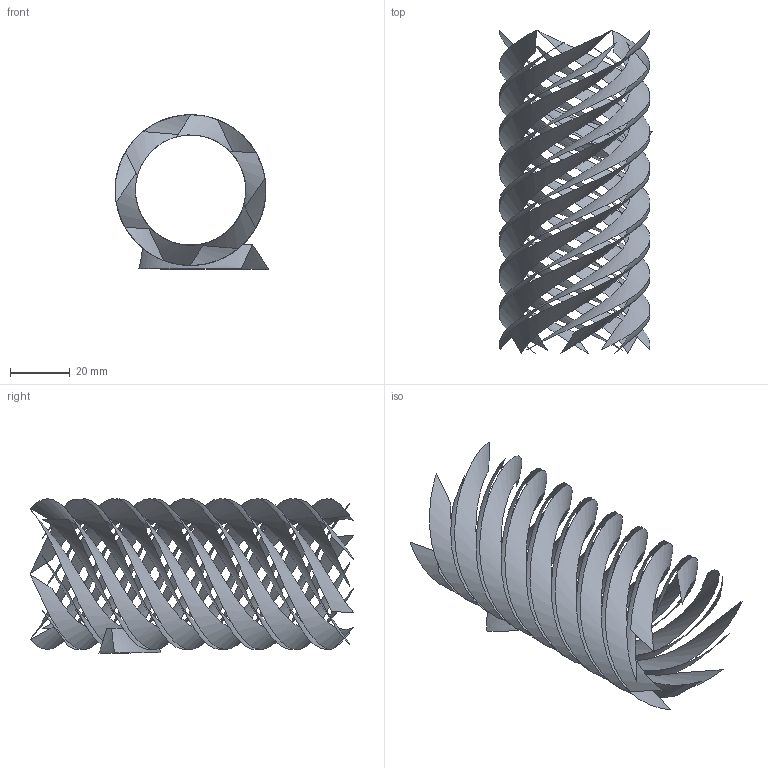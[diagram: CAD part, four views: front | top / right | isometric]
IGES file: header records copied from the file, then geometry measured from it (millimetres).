
Global section: file name: C:\Documents and Settings\ZAK\My Documents\ZAK INTERNATIONAL\OLD CONTACTS\CAXWorm Face\Final_2_66_Scale.igs; native system: ______________________________________________________; preprocessor:  _______________________________________________________________; date: 20080319.163538; units: inch
Bounding box: 51.62 x 108.64 x 51.95 mm (x, y, z)
Surface area: 19744.8 mm2 (no closed solid volume)
Topology: 0 solids, 0 shells, 14 faces, 95 edges, 132 vertices
Faces by surface type: bspline 14
